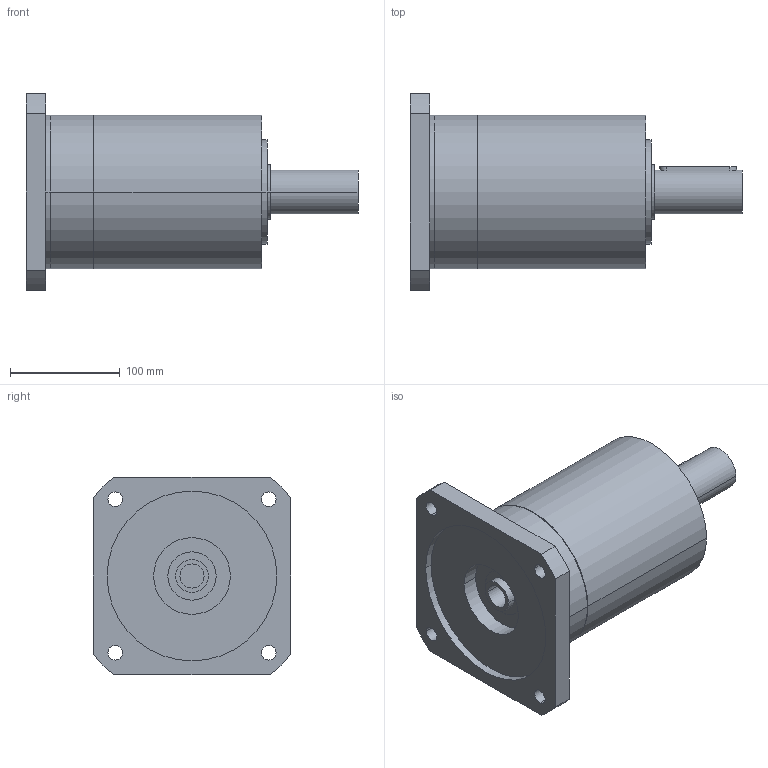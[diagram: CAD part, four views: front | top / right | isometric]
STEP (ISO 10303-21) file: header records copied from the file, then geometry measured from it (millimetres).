
FILE_DESCRIPTION(('CoCreate Modeling STEP Export'),'2;1');
FILE_NAME('GPR150_ig-9-12-16-20-28-35_40_B14_22_P11.stp','2014-08-26T15:30:40',(''),(''),'CoCreate Modeling STEP processor for AP214 (Solid Model)','CoCreate Modeling 16.00C 25-Feb-2009 (C) Parametric Technology GmbH','');
FILE_SCHEMA(('AUTOMOTIVE_DESIGN { 1 0 10303 214 1 1 1 1 }'));
Length unit declared in the file: millimetre
Products named in the file (2): GPR150_ig-9-12-16-20-28-35_40_B14_22_P11
Assembly tree (1 placements, depth 2):
  GPR150_ig-9-12-16-20-28-35_40_B14_22_P11
    GPR150_ig-9-12-16-20-28-35_40_B14_22_P11
Bounding box: 303 x 180 x 180 mm (x, y, z)
Volume: 3519737.3 mm3; surface area: 193422.1 mm2
Topology: 1 solids, 1 shells, 76 faces, 200 edges, 140 vertices
Faces by surface type: cylinder 46, plane 24, cone 6
Entity records: 2098 total; most frequent: CARTESIAN_POINT 405, ORIENTED_EDGE 396, DIRECTION 284, EDGE_CURVE 198, VERTEX_POINT 140, AXIS2_PLACEMENT_3D 107, EDGE_LOOP 100, FACE_OUTER_BOUND 76
